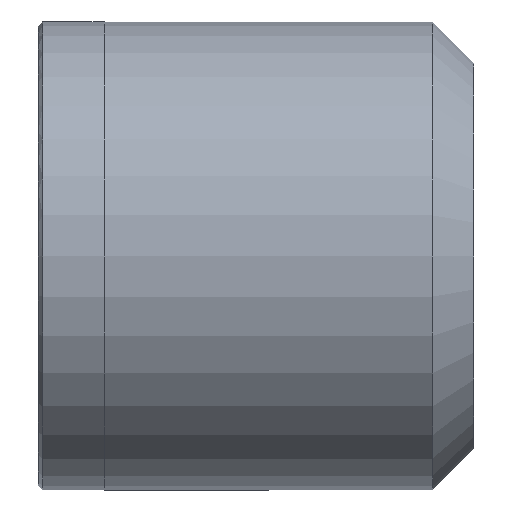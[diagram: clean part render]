
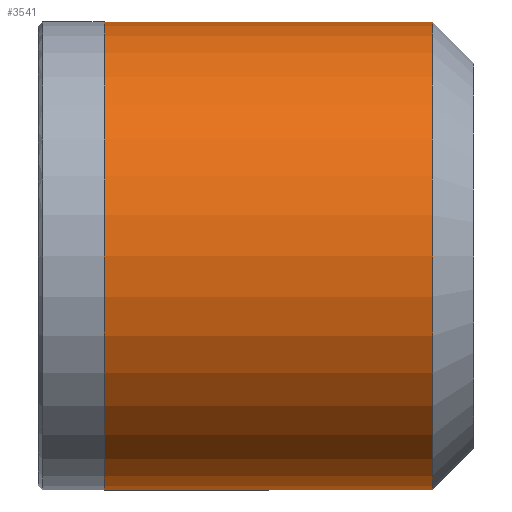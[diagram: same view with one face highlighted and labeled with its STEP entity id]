
A CAD part, front view. The second image highlights one B-rep face of the part: STEP entity #3541.
In plain terms, the highlighted cylindrical face has radius 28.5 mm (diameter 57 mm), a partial arc.
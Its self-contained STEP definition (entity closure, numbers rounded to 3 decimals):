
#644 = CARTESIAN_POINT ( 'NONE',  ( -57., 0.017, 0. ) ) ;
#917 = DIRECTION ( 'NONE',  ( -1., 0., 0. ) ) ;
#1477 = VECTOR ( 'NONE', #13487, 1000. ) ;
#1866 = ORIENTED_EDGE ( 'NONE', *, *, #4848, .F. ) ;
#2241 = DIRECTION ( 'NONE',  ( 0., 0., 1. ) ) ;
#2298 = CARTESIAN_POINT ( 'NONE',  ( -57., 0.017, 28.5 ) ) ;
#2344 = DIRECTION ( 'NONE',  ( -1., 0., 0. ) ) ;
#2755 = CARTESIAN_POINT ( 'NONE',  ( -12., 0.017, 0. ) ) ;
#2856 = DIRECTION ( 'NONE',  ( -1., 0., 0. ) ) ;
#3110 = VERTEX_POINT ( 'NONE', #2298 ) ;
#3541 = ADVANCED_FACE ( 'NONE', ( #9177 ), #9685, .T. ) ;
#3866 = EDGE_CURVE ( 'NONE', #7723, #14203, #11230, .T. ) ;
#4291 = CARTESIAN_POINT ( 'NONE',  ( -57., 0.017, -28.5 ) ) ;
#4622 = CIRCLE ( 'NONE', #11408, 28.5 ) ;
#4848 = EDGE_CURVE ( 'NONE', #14203, #3110, #4622, .T. ) ;
#5489 = CARTESIAN_POINT ( 'NONE',  ( -12., 0.017, 28.5 ) ) ;
#5554 = CARTESIAN_POINT ( 'NONE',  ( -17., 0.017, -28.5 ) ) ;
#5602 = CARTESIAN_POINT ( 'NONE',  ( -17., 0.017, 0. ) ) ;
#5698 = EDGE_CURVE ( 'NONE', #7723, #9795, #14471, .T. ) ;
#6501 = DIRECTION ( 'NONE',  ( -1., 0., 0. ) ) ;
#7633 = DIRECTION ( 'NONE',  ( 0., 0., 1. ) ) ;
#7723 = VERTEX_POINT ( 'NONE', #5554 ) ;
#7768 = EDGE_CURVE ( 'NONE', #9795, #3110, #10009, .T. ) ;
#8042 = CARTESIAN_POINT ( 'NONE',  ( -12., 0.017, -28.5 ) ) ;
#9177 = FACE_OUTER_BOUND ( 'NONE', #11720, .T. ) ;
#9685 = CYLINDRICAL_SURFACE ( 'NONE', #11962, 28.5 ) ;
#9795 = VERTEX_POINT ( 'NONE', #11121 ) ;
#10009 = LINE ( 'NONE', #5489, #12181 ) ;
#10011 = ORIENTED_EDGE ( 'NONE', *, *, #3866, .F. ) ;
#10063 = ORIENTED_EDGE ( 'NONE', *, *, #7768, .T. ) ;
#10077 = ORIENTED_EDGE ( 'NONE', *, *, #5698, .T. ) ;
#10221 = DIRECTION ( 'NONE',  ( 0., 0., 1. ) ) ;
#11121 = CARTESIAN_POINT ( 'NONE',  ( -17., 0.017, 28.5 ) ) ;
#11230 = LINE ( 'NONE', #8042, #1477 ) ;
#11408 = AXIS2_PLACEMENT_3D ( 'NONE', #644, #917, #10221 ) ;
#11720 = EDGE_LOOP ( 'NONE', ( #10011, #10077, #10063, #1866 ) ) ;
#11962 = AXIS2_PLACEMENT_3D ( 'NONE', #2755, #2344, #2241 ) ;
#12181 = VECTOR ( 'NONE', #6501, 1000. ) ;
#13487 = DIRECTION ( 'NONE',  ( -1., 0., 0. ) ) ;
#13809 = AXIS2_PLACEMENT_3D ( 'NONE', #5602, #2856, #7633 ) ;
#14203 = VERTEX_POINT ( 'NONE', #4291 ) ;
#14471 = CIRCLE ( 'NONE', #13809, 28.5 ) ;
